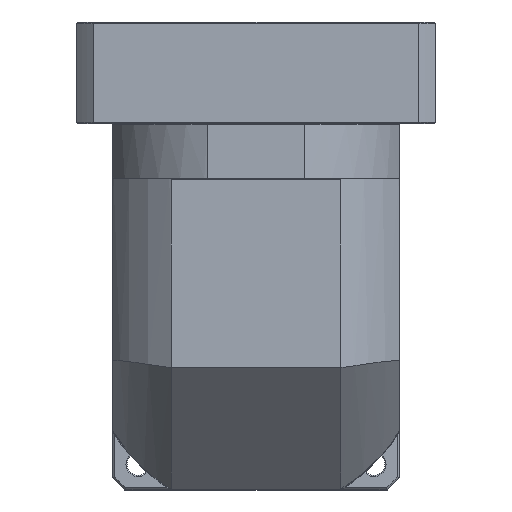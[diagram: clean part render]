
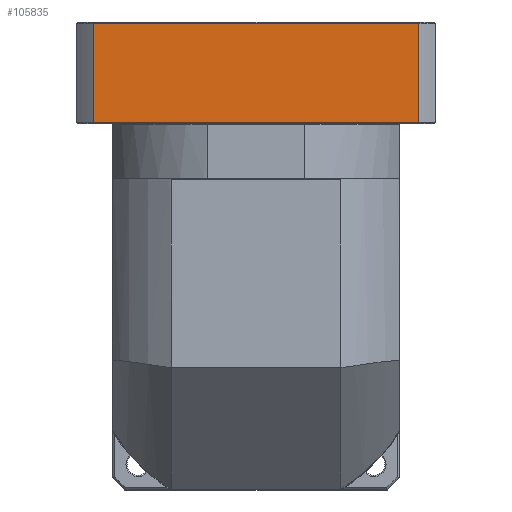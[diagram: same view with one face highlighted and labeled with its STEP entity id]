
A CAD part, top view. The second image highlights one B-rep face of the part: STEP entity #105835.
In plain terms, the highlighted planar face has unit normal (0, 0, 1).
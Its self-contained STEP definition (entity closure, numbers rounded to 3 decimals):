
#29 = CARTESIAN_POINT ( 'NONE',  ( -27.837, 213.524, 111.614 ) ) ;
#1616 = PLANE ( 'NONE',  #59026 ) ;
#3666 = CARTESIAN_POINT ( 'NONE',  ( -36.345, 164.524, 111.614 ) ) ;
#4698 = EDGE_CURVE ( 'NONE', #14109, #114172, #24160, .T. ) ;
#10502 = VECTOR ( 'NONE', #73693, 1000. ) ;
#11115 = ORIENTED_EDGE ( 'NONE', *, *, #101459, .F. ) ;
#14109 = VERTEX_POINT ( 'NONE', #64048 ) ;
#24160 = LINE ( 'NONE', #83944, #32130 ) ;
#25259 = EDGE_CURVE ( 'NONE', #130931, #14109, #116937, .T. ) ;
#25878 = CARTESIAN_POINT ( 'NONE',  ( -27.837, 214.024, 111.614 ) ) ;
#32130 = VECTOR ( 'NONE', #42864, 1000. ) ;
#35863 = LINE ( 'NONE', #43275, #10502 ) ;
#42864 = DIRECTION ( 'NONE',  ( 0., -1., 0. ) ) ;
#43275 = CARTESIAN_POINT ( 'NONE',  ( -197.329, 214.024, 111.614 ) ) ;
#45377 = CARTESIAN_POINT ( 'NONE',  ( -197.329, 164.524, 111.614 ) ) ;
#50542 = CARTESIAN_POINT ( 'NONE',  ( -27.837, 164.524, 111.614 ) ) ;
#51384 = VECTOR ( 'NONE', #103196, 1000. ) ;
#53007 = ORIENTED_EDGE ( 'NONE', *, *, #4698, .F. ) ;
#54912 = EDGE_CURVE ( 'NONE', #106484, #114172, #105705, .T. ) ;
#56315 = DIRECTION ( 'NONE',  ( 0., 0., -1. ) ) ;
#59026 = AXIS2_PLACEMENT_3D ( 'NONE', #25878, #56315, #127654 ) ;
#59760 = DIRECTION ( 'NONE',  ( 1., 0., 0. ) ) ;
#64048 = CARTESIAN_POINT ( 'NONE',  ( -36.345, 213.524, 111.614 ) ) ;
#73693 = DIRECTION ( 'NONE',  ( 0., 1., 0. ) ) ;
#79099 = CARTESIAN_POINT ( 'NONE',  ( -197.329, 213.524, 111.614 ) ) ;
#82291 = ORIENTED_EDGE ( 'NONE', *, *, #54912, .T. ) ;
#83944 = CARTESIAN_POINT ( 'NONE',  ( -36.345, -178.782, 111.614 ) ) ;
#97069 = EDGE_LOOP ( 'NONE', ( #11115, #82291, #53007, #108801 ) ) ;
#101459 = EDGE_CURVE ( 'NONE', #106484, #130931, #35863, .T. ) ;
#102561 = VECTOR ( 'NONE', #59760, 1000. ) ;
#103196 = DIRECTION ( 'NONE',  ( 1., 0., 0. ) ) ;
#105705 = LINE ( 'NONE', #50542, #51384 ) ;
#105835 = ADVANCED_FACE ( 'NONE', ( #131684 ), #1616, .F. ) ;
#106484 = VERTEX_POINT ( 'NONE', #45377 ) ;
#108801 = ORIENTED_EDGE ( 'NONE', *, *, #25259, .F. ) ;
#114172 = VERTEX_POINT ( 'NONE', #3666 ) ;
#116937 = LINE ( 'NONE', #29, #102561 ) ;
#127654 = DIRECTION ( 'NONE',  ( 0., -1., 0. ) ) ;
#130931 = VERTEX_POINT ( 'NONE', #79099 ) ;
#131684 = FACE_OUTER_BOUND ( 'NONE', #97069, .T. ) ;
